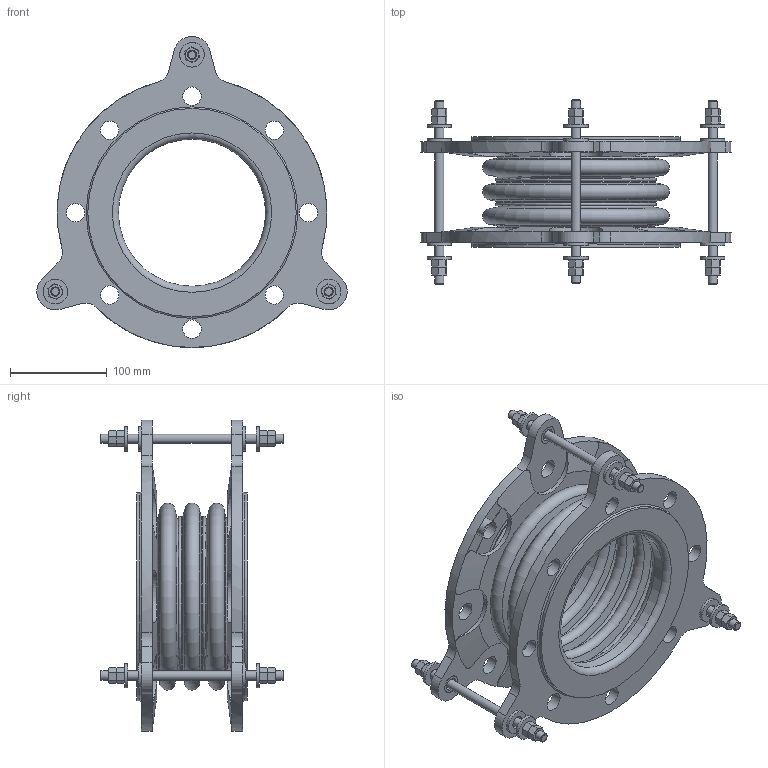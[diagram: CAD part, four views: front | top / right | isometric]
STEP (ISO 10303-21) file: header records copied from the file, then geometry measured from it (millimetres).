
FILE_DESCRIPTION(/* description */ (''),/* implementation_level */ '2;1');
FILE_NAME(/* name */ 'C:\Users\rramoutar\Desktop\803\803 6IDx4.5FF.stp',/* time_stamp */ '2016-04-24T17:36:00-04:00',/* author */ ('rramoutar'),/* organization */ ('Mason Industries Inc.'),/* preprocessor_version */ 'ST-DEVELOPER v15.6',/* originating_system */ 'Autodesk Inventor 2015',/* authorisation */ '');
FILE_SCHEMA (('CONFIG_CONTROL_DESIGN'));
Length unit declared in the file: inch
Products named in the file (1): 803 6IDx4.5FF
Bounding box: 321.17 x 190.5 x 322.19 mm (x, y, z)
Volume: 1665066.1 mm3; surface area: 482072.5 mm2
Topology: 6 solids, 6 shells, 533 faces, 1181 edges, 704 vertices
Faces by surface type: plane 188, cone 178, cylinder 141, torus 26
Full cylindrical faces by diameter (mm): 9.525 x9, 11.112 x6, 13.097 x6, 18.653 x6, 19.05 x22, 25.4 x12, 152.4 x2, 158.75 x2, 160.337 x2, 215.9 x2
Entity records: 14838 total; most frequent: CARTESIAN_POINT 3668, DIRECTION 2196, ORIENTED_EDGE 2124, EDGE_CURVE 1062, AXIS2_PLACEMENT_3D 984, EDGE_LOOP 738, VERTEX_POINT 696, FACE_OUTER_BOUND 533
